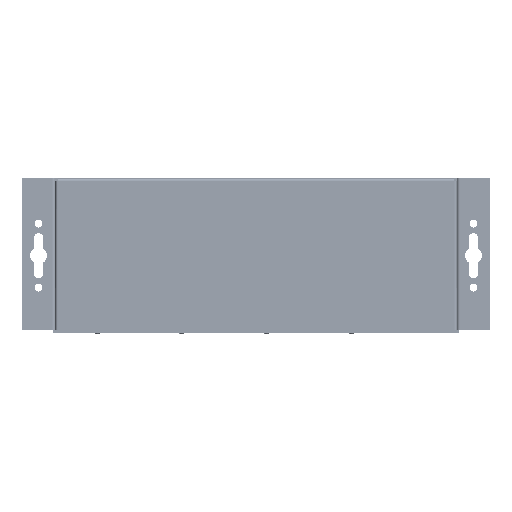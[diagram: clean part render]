
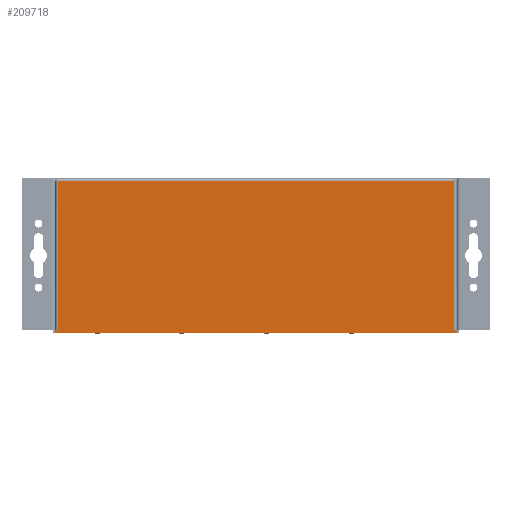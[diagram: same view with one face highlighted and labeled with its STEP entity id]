
A CAD part, front view. The second image highlights one B-rep face of the part: STEP entity #209718.
In plain terms, the highlighted planar face has unit normal (0, -1, 0).
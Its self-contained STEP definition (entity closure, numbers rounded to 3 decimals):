
#7914=PLANE('',#224014);
#18032=FACE_OUTER_BOUND('',#29433,.T.);
#29433=EDGE_LOOP('',(#182264,#182265,#182266,#182267,#182268,#182269,#182270,
#182271));
#52059=LINE('',#324812,#77328);
#52060=LINE('',#324818,#77329);
#52528=LINE('',#329334,#77797);
#52541=LINE('',#329364,#77810);
#52544=LINE('',#329370,#77813);
#55792=LINE('',#341797,#81061);
#55797=LINE('',#341812,#81066);
#55806=LINE('',#341836,#81075);
#77328=VECTOR('',#260555,10.);
#77329=VECTOR('',#260560,10.);
#77797=VECTOR('',#261672,10.);
#77810=VECTOR('',#261701,10.);
#77813=VECTOR('',#261708,10.);
#81061=VECTOR('',#268972,10.);
#81066=VECTOR('',#268993,10.);
#81075=VECTOR('',#269028,10.);
#99791=VERTEX_POINT('',#324808);
#99792=VERTEX_POINT('',#324810);
#99793=VERTEX_POINT('',#324814);
#99795=VERTEX_POINT('',#324817);
#100251=VERTEX_POINT('',#329333);
#100260=VERTEX_POINT('',#329362);
#102758=VERTEX_POINT('',#341796);
#102760=VERTEX_POINT('',#341810);
#125639=EDGE_CURVE('',#99792,#99791,#52059,.T.);
#125641=EDGE_CURVE('',#99793,#99795,#52060,.T.);
#126357=EDGE_CURVE('',#99795,#100251,#52528,.T.);
#126374=EDGE_CURVE('',#99792,#100260,#52541,.T.);
#126377=EDGE_CURVE('',#100251,#100260,#52544,.T.);
#130399=EDGE_CURVE('',#102758,#99791,#55792,.T.);
#130407=EDGE_CURVE('',#99793,#102760,#55797,.T.);
#130420=EDGE_CURVE('',#102760,#102758,#55806,.T.);
#182264=ORIENTED_EDGE('',*,*,#130399,.T.);
#182265=ORIENTED_EDGE('',*,*,#125639,.F.);
#182266=ORIENTED_EDGE('',*,*,#126374,.T.);
#182267=ORIENTED_EDGE('',*,*,#126377,.F.);
#182268=ORIENTED_EDGE('',*,*,#126357,.F.);
#182269=ORIENTED_EDGE('',*,*,#125641,.F.);
#182270=ORIENTED_EDGE('',*,*,#130407,.T.);
#182271=ORIENTED_EDGE('',*,*,#130420,.T.);
#209718=ADVANCED_FACE('',(#18032),#7914,.T.);
#224014=AXIS2_PLACEMENT_3D('',#341846,#269041,#269042);
#260555=DIRECTION('',(1.,0.,0.));
#260560=DIRECTION('',(1.,0.,0.));
#261672=DIRECTION('',(0.,0.,-1.));
#261701=DIRECTION('',(0.,0.,-1.));
#261708=DIRECTION('',(-1.,0.,0.));
#268972=DIRECTION('',(0.,0.,-1.));
#268993=DIRECTION('',(0.,0.,1.));
#269028=DIRECTION('',(-1.,0.,0.));
#269041=DIRECTION('center_axis',(0.,-1.,0.));
#269042=DIRECTION('ref_axis',(1.,0.,0.));
#324808=CARTESIAN_POINT('',(-4.2,-6.2,-56.95));
#324810=CARTESIAN_POINT('',(-5.2,-6.2,-56.95));
#324812=CARTESIAN_POINT('',(-5.2,-6.2,-56.95));
#324814=CARTESIAN_POINT('',(149.2,-6.2,-56.95));
#324817=CARTESIAN_POINT('',(150.2,-6.2,-56.95));
#324818=CARTESIAN_POINT('',(-5.2,-6.2,-56.95));
#329333=CARTESIAN_POINT('',(150.2,-6.2,-57.95));
#329334=CARTESIAN_POINT('',(150.2,-6.2,-56.95));
#329362=CARTESIAN_POINT('',(-5.2,-6.2,-57.95));
#329364=CARTESIAN_POINT('',(-5.2,-6.2,-56.95));
#329370=CARTESIAN_POINT('',(-5.2,-6.2,-57.95));
#341796=CARTESIAN_POINT('',(-4.2,-6.2,0.8));
#341797=CARTESIAN_POINT('',(-4.2,-6.2,-42.25));
#341810=CARTESIAN_POINT('',(149.2,-6.2,0.8));
#341812=CARTESIAN_POINT('',(149.2,-6.2,-13.375));
#341836=CARTESIAN_POINT('',(33.625,-6.2,0.8));
#341846=CARTESIAN_POINT('Origin',(72.5,-6.2,-27.55));
